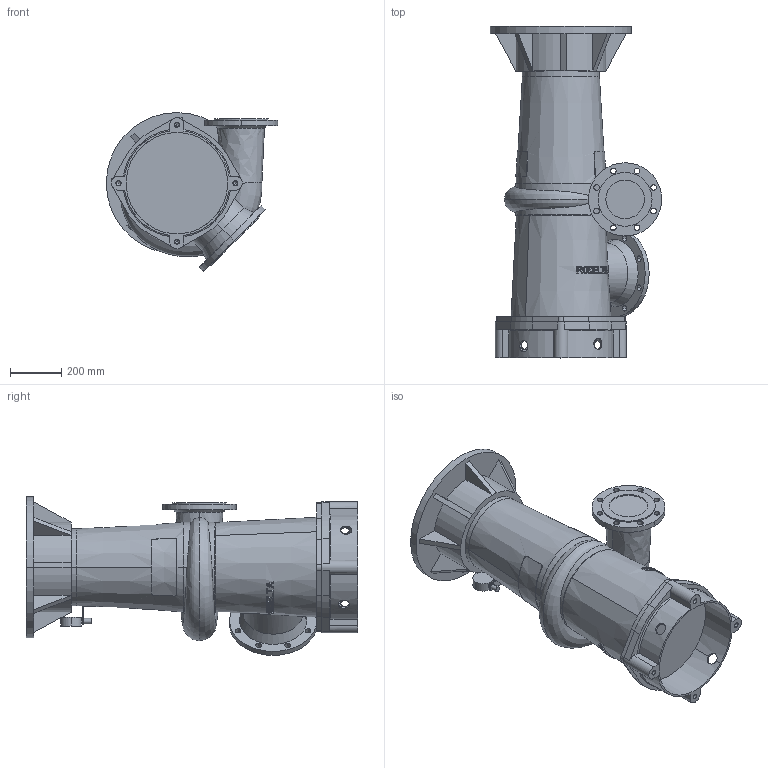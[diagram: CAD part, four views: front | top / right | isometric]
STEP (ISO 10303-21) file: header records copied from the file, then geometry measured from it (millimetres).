
FILE_DESCRIPTION((''),'2;1');
FILE_NAME('7410_VOOR_BLAD_ASM','2024-07-24T',('Lyritlocal'),(''),'PRO/ENGINEER BY PARAMETRIC TECHNOLOGY CORPORATION, 2016360','PRO/ENGINEER BY PARAMETRIC TECHNOLOGY CORPORATION, 2016360','');
FILE_SCHEMA(('CONFIG_CONTROL_DESIGN'));
Length unit declared in the file: millimetre
Products named in the file (3): 7410; 7410_VOET; 7410_VOOR_BLAD_ASM
Assembly tree (2 placements, depth 2):
  7410_VOOR_BLAD_ASM
    7410
    7410_VOET
Bounding box: 667.5 x 1292 x 618.65 mm (x, y, z)
Volume: 142858668 mm3; surface area: 3346063.5 mm2
Topology: 2 solids, 6 shells, 554 faces, 1491 edges, 983 vertices
Faces by surface type: plane 368, cylinder 138, cone 38, bspline 6, torus 4
Entity records: 19705 total; most frequent: CARTESIAN_POINT 6220, ORIENTED_EDGE 2950, DIRECTION 2529, EDGE_CURVE 1483, VERTEX_POINT 983, AXIS2_PLACEMENT_3D 961, EDGE_LOOP 646, VECTOR 607
